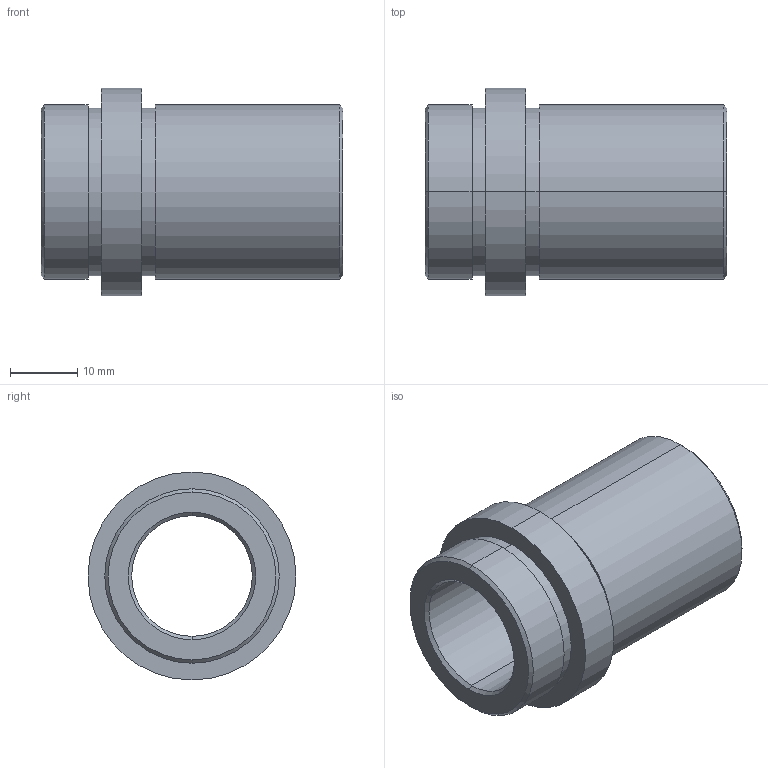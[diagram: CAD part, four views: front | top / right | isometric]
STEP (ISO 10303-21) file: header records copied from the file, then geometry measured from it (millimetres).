
FILE_DESCRIPTION( ( 'STEP AP203' ), '1' );
FILE_NAME( 'D:/Delta 3 D/D21/D21 - 18x36.step', '2002-12-31T22:35:53', ( ' ' ), ( ' ' ), 'XStep 1.0', ' ', ' ' );
FILE_SCHEMA( ( 'CONFIG_CONTROL_DESIGN' ) );
Length unit declared in the file: metre
Products named in the file (1): 1
Bounding box: 45 x 31 x 31 mm (x, y, z)
Volume: 13589 mm3; surface area: 7381.9 mm2
Topology: 1 solids, 1 shells, 26 faces, 52 edges, 32 vertices
Faces by surface type: revolution 20, bspline 6
Entity records: 773 total; most frequent: CARTESIAN_POINT 169, DIRECTION 106, ORIENTED_EDGE 104, EDGE_CURVE 52, AXIS2_PLACEMENT_3D 33, EDGE_LOOP 32, VERTEX_POINT 32, CIRCLE 32
